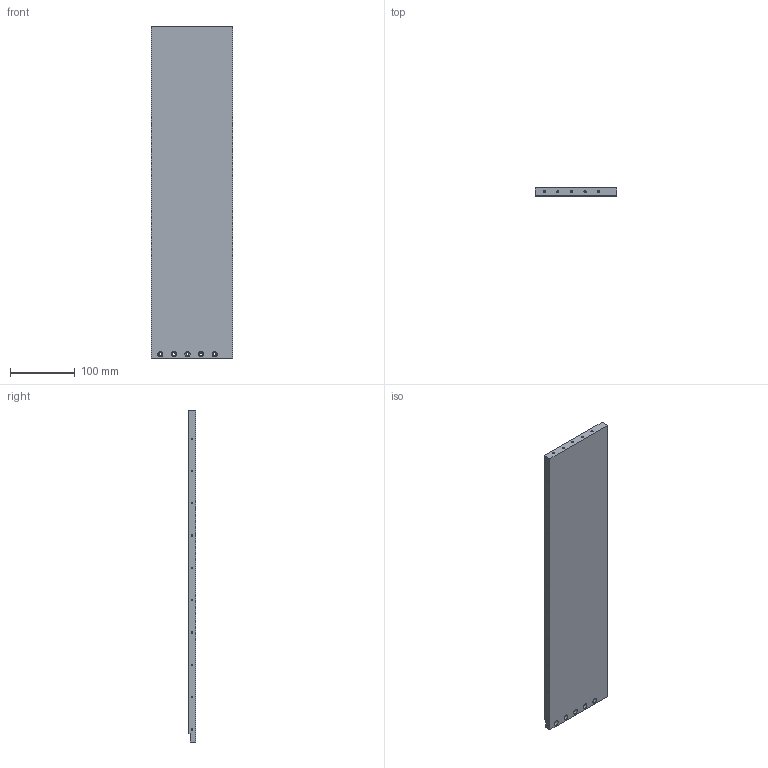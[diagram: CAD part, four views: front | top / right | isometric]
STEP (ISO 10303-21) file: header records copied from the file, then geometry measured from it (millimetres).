
FILE_DESCRIPTION(/* description */ (''),/* implementation_level */ '2;1');
FILE_NAME(/* name */ 'C:\Users\strothej\Documents\ActualDocuments\MicroscopeParts\TwoPhotonSystem\ScanningMechanics\v34\Drawings\Enclosure_Panel4.stp',/* time_stamp */ '2017-09-11T12:10:20-07:00',/* author */ ('strothej'),/* organization */ (''),/* preprocessor_version */ 'ST-DEVELOPER v16.1',/* originating_system */ 'Autodesk Inventor 2016',/* authorisation */ '');
FILE_SCHEMA (('AUTOMOTIVE_DESIGN { 1 0 10303 214 3 1 1 }'));
Length unit declared in the file: millimetre
Products named in the file (1): Enclosure_Panel4
Bounding box: 126 x 12 x 514 mm (x, y, z)
Volume: 765960.7 mm3; surface area: 150635.2 mm2
Topology: 1 solids, 1 shells, 93 faces, 223 edges, 137 vertices
Faces by surface type: cylinder 45, cone 35, plane 13
Full cylindrical faces by diameter (mm): 2.013 x10, 3.242 x5, 4.134 x20, 4.5 x5, 8 x5
Entity records: 2016 total; most frequent: DIRECTION 386, CARTESIAN_POINT 304, ORIENTED_EDGE 216, EDGE_LOOP 188, AXIS2_PLACEMENT_3D 184, EDGE_CURVE 108, VERTEX_POINT 102, FACE_BOUND 95
